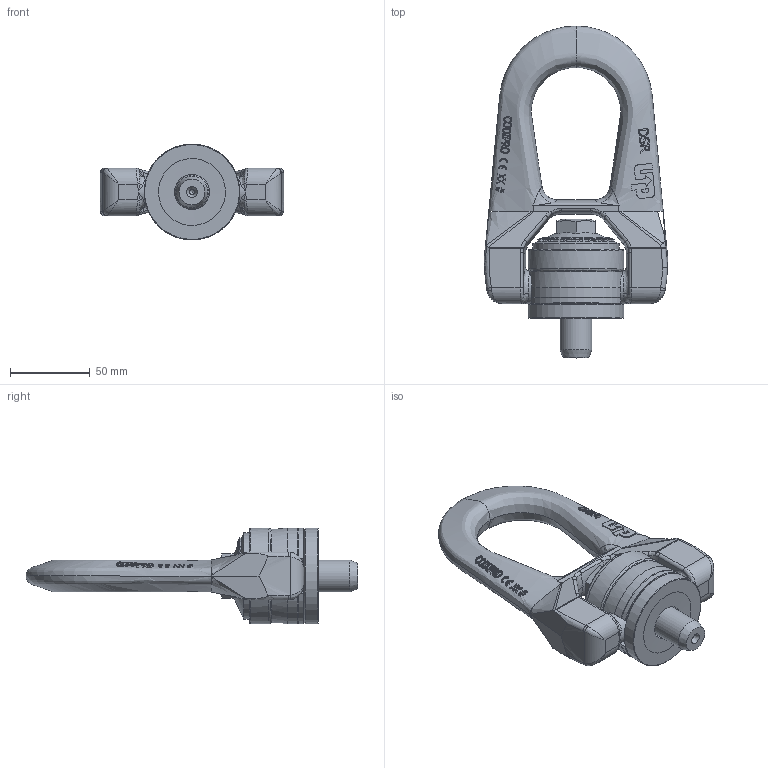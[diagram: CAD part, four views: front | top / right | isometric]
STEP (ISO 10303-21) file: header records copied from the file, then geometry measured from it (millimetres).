
FILE_DESCRIPTION(/* description */ (''),/* implementation_level */ '2;1');
FILE_NAME(/* name */ 'W:\CODIPRO\DOCUMENTS\Plans A NE PAS DIFFUSER !!!\Fichier STEP Modelisé\Gamme UP\Produits UP\DSR UP\DSR M20 3t2 UP.stp',/* time_stamp */ '2017-09-13T11:00:30+02:00',/* author */ ('rklenes'),/* organization */ (''),/* preprocessor_version */ 'ST-DEVELOPER v16.5',/* originating_system */ 'Autodesk Inventor 2017',/* authorisation */ '');
FILE_SCHEMA (('AUTOMOTIVE_DESIGN { 1 0 10303 214 3 1 1 }'));
Products named in the file (6): DSR M20 3t2 UP; DSR 3; DRB_B3B; DRM_AF3B_UP; DRE_D3M22A; DRA_M22X68_UP
Assembly tree (5 placements, depth 3):
  DSR M20 3t2 UP
    DSR 3
      DRB_B3B
      DRM_AF3B_UP
    DRE_D3M22A
    DRA_M22X68_UP
Bounding box: 115 x 208 x 60 mm (x, y, z)
Volume: 324967.6 mm3; surface area: 73136.1 mm2
Topology: 4 solids, 4 shells, 955 faces, 2545 edges, 1648 vertices
Faces by surface type: plane 435, bspline 368, cylinder 76, cone 60, torus 15, sphere 1
Full cylindrical faces by diameter (mm): 3.15 x1, 20 x3, 22 x3, 22.2 x1, 33.6 x2, 34 x2, 46 x1, 54 x1, 60 x2
Entity records: 51305 total; most frequent: CARTESIAN_POINT 30240, ORIENTED_EDGE 4980, DIRECTION 3254, EDGE_CURVE 2490, VERTEX_POINT 1640, AXIS2_PLACEMENT_3D 1144, EDGE_LOOP 1058, LINE 966
